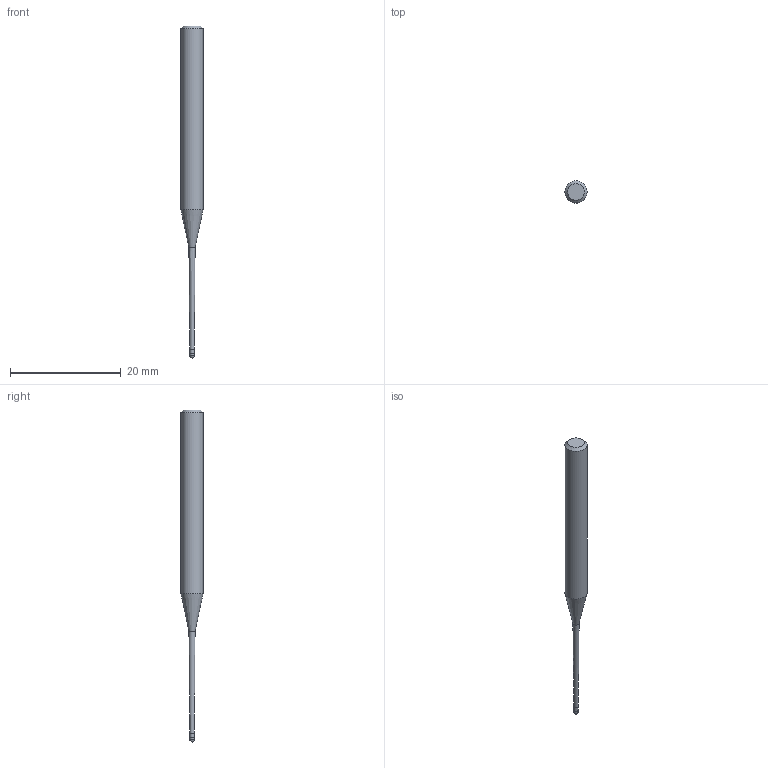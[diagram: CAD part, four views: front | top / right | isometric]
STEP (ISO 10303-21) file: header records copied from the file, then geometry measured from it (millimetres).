
FILE_DESCRIPTION((''),'2;1');
FILE_NAME('C:\Users\nsx150\AppData\Local\Temp\Mastercam 2021\SNAKH10GOD\TEMP.step','2021-10-21T13:31:51',(''),(''),'STEP Write','Mastercam 2021 ... CNC Software, Inc.','');
FILE_SCHEMA(('AUTOMOTIVE_DESIGN'));
Length unit declared in the file: millimetre
Products named in the file (1): None
Bounding box: 4 x 4 x 60 mm (x, y, z)
Volume: 468.6 mm3; surface area: 541.8 mm2
Topology: 2 solids, 2 shells, 10 faces, 16 edges, 9 vertices
Faces by surface type: plane 3, cylinder 3, cone 3, sphere 1
Full cylindrical faces by diameter (mm): 0.785 x1, 0.8 x1, 4 x1
Entity records: 232 total; most frequent: DIRECTION 40, CARTESIAN_POINT 28, AXIS2_PLACEMENT_3D 20, ORIENTED_EDGE 16, EDGE_LOOP 16, STYLED_ITEM 13, ADVANCED_FACE 10, FACE_BOUND 9
